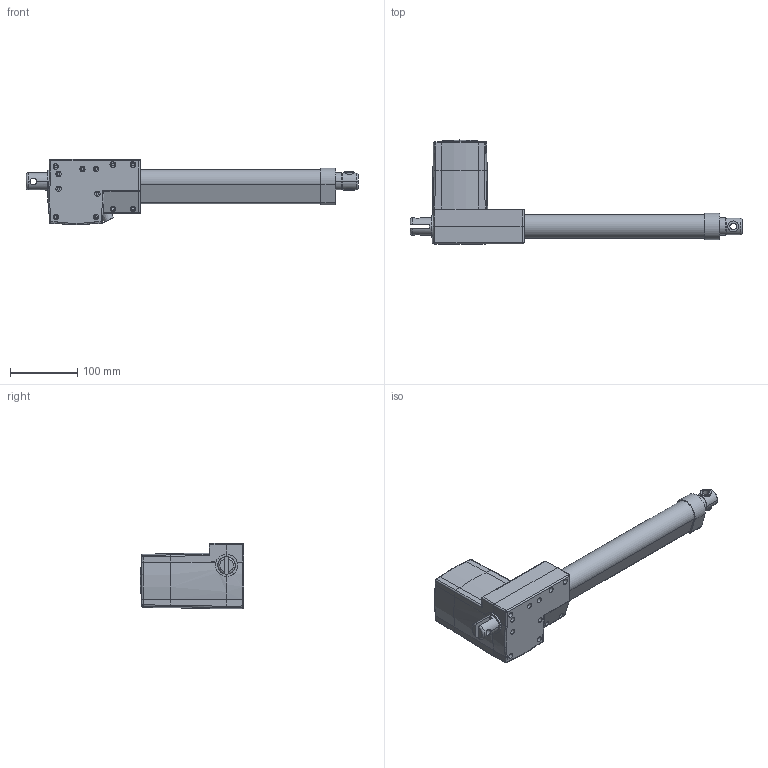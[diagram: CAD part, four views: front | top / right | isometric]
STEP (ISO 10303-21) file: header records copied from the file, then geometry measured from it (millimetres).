
FILE_DESCRIPTION((''),'2;1');
FILE_NAME('LAM3-S100_ASM','2007-07-12T',('amyliao'),(''),'PRO/ENGINEER BY PARAMETRIC TECHNOLOGY CORPORATION, 2003210','PRO/ENGINEER BY PARAMETRIC TECHNOLOGY CORPORATION, 2003210','');
FILE_SCHEMA(('CONFIG_CONTROL_DESIGN'));
Length unit declared in the file: millimetre
Products named in the file (11): LAM3-COVER-01; LAM3-100; M3-OUT-TUBE-COVER; LAM3-IN-TUBE; LAM3-IN-NUT; LAM3-05; LAM3-100_ASM; LAM3_MOTOR_COVER3_1_0430; LAM3-COVER-03; LAM3-04; LAM3-S100_ASM
Assembly tree (11 placements, depth 3):
  LAM3-S100_ASM
    LAM3-COVER-01
    LAM3-100_ASM
      LAM3-100
      M3-OUT-TUBE-COVER
      LAM3-IN-TUBE
      LAM3-IN-NUT
      LAM3-05  x2
    LAM3_MOTOR_COVER3_1_0430
    LAM3-COVER-03
    LAM3-04
Bounding box: 495 x 155 x 97.78 mm (x, y, z)
Volume: 682751.7 mm3; surface area: 305568.1 mm2
Topology: 10 solids, 10 shells, 746 faces, 2031 edges, 1330 vertices
Faces by surface type: plane 402, cylinder 220, cone 81, sphere 24, torus 15, bspline 4
Entity records: 25024 total; most frequent: CARTESIAN_POINT 5824, ORIENTED_EDGE 4014, DIRECTION 4007, EDGE_CURVE 2007, AXIS2_PLACEMENT_3D 1515, VERTEX_POINT 1318, VECTOR 977, LINE 977
